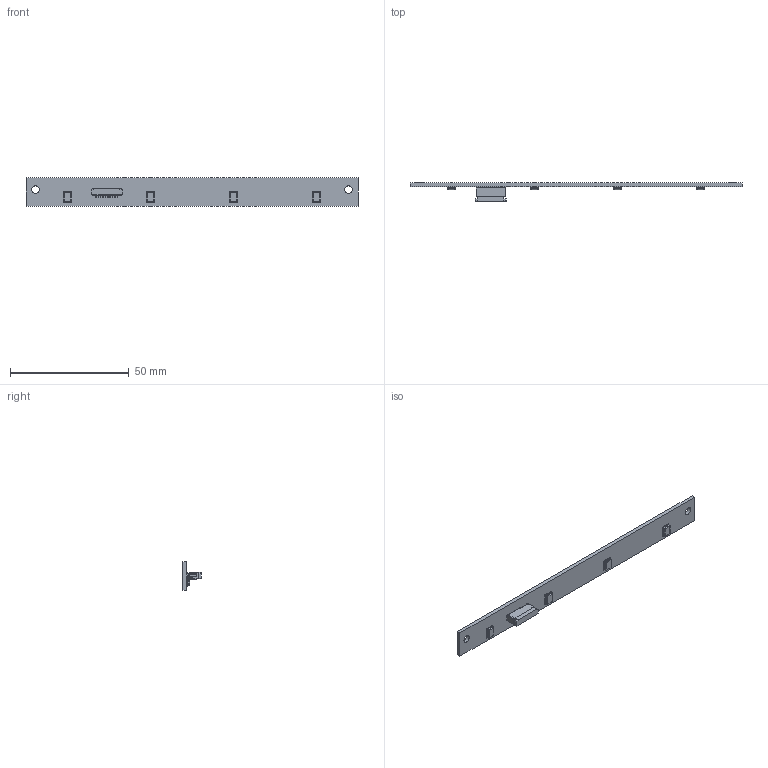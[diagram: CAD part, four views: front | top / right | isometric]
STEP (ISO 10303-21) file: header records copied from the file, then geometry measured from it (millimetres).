
FILE_DESCRIPTION((''),'2;1');
FILE_NAME('MIC_PCB_LINEAR_ASSY_ASM','2020-08-11T',('G6003023'),(''),'PRO/ENGINEER BY PARAMETRIC TECHNOLOGY CORPORATION, 2013150','PRO/ENGINEER BY PARAMETRIC TECHNOLOGY CORPORATION, 2013150','');
FILE_SCHEMA(('CONFIG_CONTROL_DESIGN'));
Length unit declared in the file: millimetre
Products named in the file (18): MIC_PCB_LINEAR; SPM0687LR5X_REV_1_SW; MSBR-13-001; MSBR-12-001; MSBR-11-001; MSBR-10-001; MSBR-9-001; MSBR-8-001; MSBR-7-001; MSBR-6-001; MSBR-5-001; MSBR-4-001; MSBR-3-001; MSBR-2-001; MSBR-1-001; HS6110E-10PIN_ASM; CONNECTOR_PLUG-10PIN; MIC_PCB_LINEAR_ASSY_ASM
Assembly tree (20 placements, depth 3):
  MIC_PCB_LINEAR_ASSY_ASM
    MIC_PCB_LINEAR
    SPM0687LR5X_REV_1_SW  x4
    HS6110E-10PIN_ASM
      MSBR-13-001
      MSBR-12-001
      MSBR-11-001
      MSBR-10-001
      MSBR-9-001
      MSBR-8-001
      MSBR-7-001
      MSBR-6-001
      MSBR-5-001
      MSBR-4-001
      MSBR-3-001
      MSBR-2-001
      MSBR-1-001
    CONNECTOR_PLUG-10PIN
Bounding box: 140 x 7.8 x 12 mm (x, y, z)
Volume: 2939.4 mm3; surface area: 4701.1 mm2
Topology: 19 solids, 19 shells, 1246 faces, 3421 edges, 2254 vertices
Faces by surface type: plane 762, cylinder 372, bspline 112
Entity records: 33305 total; most frequent: CARTESIAN_POINT 6357, ORIENTED_EDGE 5666, DIRECTION 5471, EDGE_CURVE 2833, VECTOR 2185, LINE 2185, VERTEX_POINT 1882, AXIS2_PLACEMENT_3D 1643
